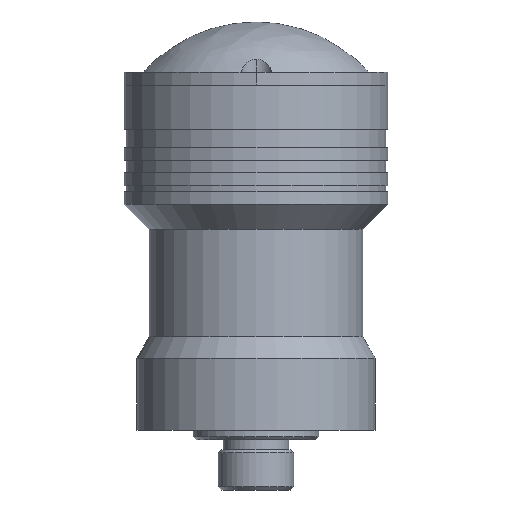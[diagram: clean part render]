
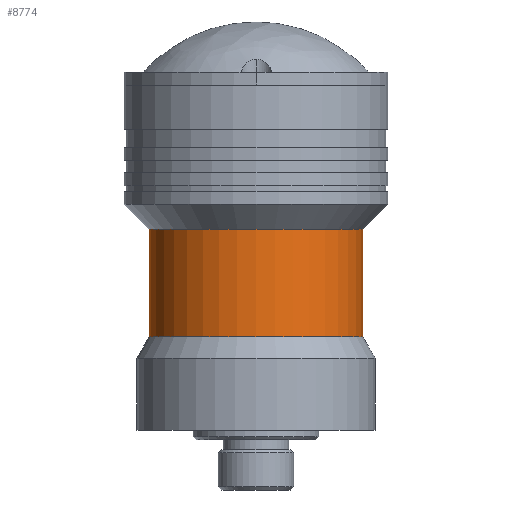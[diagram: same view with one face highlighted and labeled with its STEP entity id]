
A CAD part, front view. The second image highlights one B-rep face of the part: STEP entity #8774.
In plain terms, the highlighted cylindrical face has radius 17 mm (diameter 34 mm), a partial arc.
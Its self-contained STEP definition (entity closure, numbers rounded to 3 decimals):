
#68 = ORIENTED_EDGE ( 'NONE', *, *, #10309, .F. ) ;
#338 = AXIS2_PLACEMENT_3D ( 'NONE', #3747, #5417, #1346 ) ;
#784 = ORIENTED_EDGE ( 'NONE', *, *, #1631, .T. ) ;
#840 = FACE_OUTER_BOUND ( 'NONE', #9698, .T. ) ;
#1288 = DIRECTION ( 'NONE',  ( 0., 0., -1. ) ) ;
#1346 = DIRECTION ( 'NONE',  ( 1., 0., 0. ) ) ;
#1427 = ORIENTED_EDGE ( 'NONE', *, *, #9384, .F. ) ;
#1434 = CIRCLE ( 'NONE', #9477, 17. ) ;
#1495 = ORIENTED_EDGE ( 'NONE', *, *, #5707, .F. ) ;
#1588 = VERTEX_POINT ( 'NONE', #5998 ) ;
#1631 = EDGE_CURVE ( 'NONE', #2499, #2117, #4871, .T. ) ;
#2024 = CARTESIAN_POINT ( 'NONE',  ( 0., 0., 131.872 ) ) ;
#2117 = VERTEX_POINT ( 'NONE', #7632 ) ;
#2434 = VERTEX_POINT ( 'NONE', #4936 ) ;
#2497 = CARTESIAN_POINT ( 'NONE',  ( -17., 0., 30. ) ) ;
#2499 = VERTEX_POINT ( 'NONE', #2497 ) ;
#2574 = VECTOR ( 'NONE', #4803, 1000. ) ;
#3747 = CARTESIAN_POINT ( 'NONE',  ( 0., 0., 30. ) ) ;
#3961 = CARTESIAN_POINT ( 'NONE',  ( -17., 0., 131.872 ) ) ;
#4421 = CIRCLE ( 'NONE', #338, 17. ) ;
#4456 = DIRECTION ( 'NONE',  ( 0., 0., -1. ) ) ;
#4803 = DIRECTION ( 'NONE',  ( 0., 0., -1. ) ) ;
#4871 = LINE ( 'NONE', #3961, #7188 ) ;
#4936 = CARTESIAN_POINT ( 'NONE',  ( 17., 0., 30. ) ) ;
#5417 = DIRECTION ( 'NONE',  ( 0., 0., 1. ) ) ;
#5707 = EDGE_CURVE ( 'NONE', #1588, #2117, #1434, .T. ) ;
#5872 = CYLINDRICAL_SURFACE ( 'NONE', #8488, 17. ) ;
#5998 = CARTESIAN_POINT ( 'NONE',  ( 17., 0., 12.928 ) ) ;
#6398 = CARTESIAN_POINT ( 'NONE',  ( 17., 0., 131.872 ) ) ;
#6954 = LINE ( 'NONE', #6398, #2574 ) ;
#7188 = VECTOR ( 'NONE', #8144, 1000. ) ;
#7632 = CARTESIAN_POINT ( 'NONE',  ( -17., 0., 12.928 ) ) ;
#7833 = CARTESIAN_POINT ( 'NONE',  ( 0., 0., 12.928 ) ) ;
#8144 = DIRECTION ( 'NONE',  ( 0., 0., -1. ) ) ;
#8488 = AXIS2_PLACEMENT_3D ( 'NONE', #2024, #1288, #10059 ) ;
#8774 = ADVANCED_FACE ( 'NONE', ( #840 ), #5872, .T. ) ;
#9357 = DIRECTION ( 'NONE',  ( -1., 0., 0. ) ) ;
#9384 = EDGE_CURVE ( 'NONE', #2499, #2434, #4421, .T. ) ;
#9477 = AXIS2_PLACEMENT_3D ( 'NONE', #7833, #4456, #9357 ) ;
#9698 = EDGE_LOOP ( 'NONE', ( #68, #1427, #784, #1495 ) ) ;
#10059 = DIRECTION ( 'NONE',  ( -1., 0., 0. ) ) ;
#10309 = EDGE_CURVE ( 'NONE', #2434, #1588, #6954, .T. ) ;
